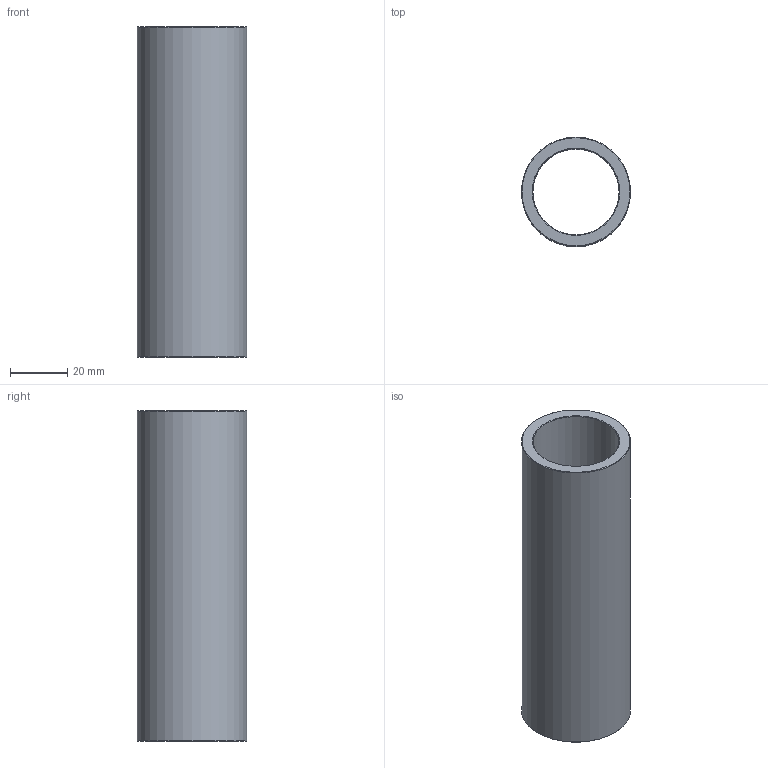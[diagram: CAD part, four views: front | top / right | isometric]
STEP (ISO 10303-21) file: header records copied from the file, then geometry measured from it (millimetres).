
FILE_DESCRIPTION(('STEP AP203'),'1');
FILE_NAME('C:/Users/Rodrigo/Desktop/GA4.030.115-1.step','2016-11-07T16:57:01',(' '),(' '),'Spatial InterOp 3D',' ',' ');
FILE_SCHEMA(('CONFIG_CONTROL_DESIGN'));
Length unit declared in the file: millimetre
Products named in the file (1): 1
Bounding box: 38 x 38 x 115 mm (x, y, z)
Volume: 49126 mm3; surface area: 25371.7 mm2
Topology: 1 solids, 1 shells, 8 faces, 14 edges, 8 vertices
Faces by surface type: cone 4, cylinder 2, plane 2
Full cylindrical faces by diameter (mm): 30 x1, 38 x1
Entity records: 212 total; most frequent: DIRECTION 34, CARTESIAN_POINT 25, AXIS2_PLACEMENT_3D 17, EDGE_LOOP 16, ORIENTED_EDGE 16, FACE_OUTER_BOUND 10, ADVANCED_FACE 8, EDGE_CURVE 8
